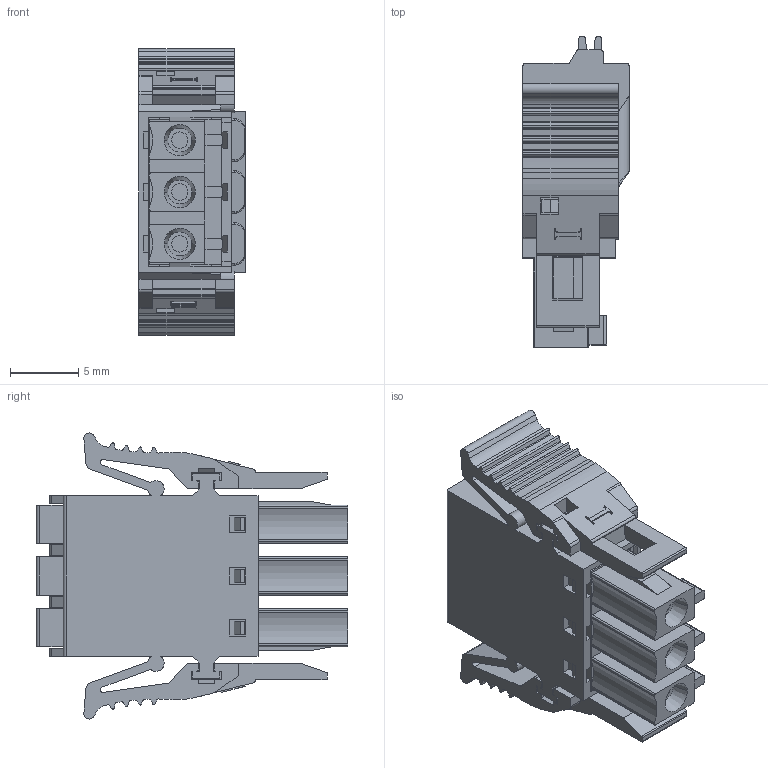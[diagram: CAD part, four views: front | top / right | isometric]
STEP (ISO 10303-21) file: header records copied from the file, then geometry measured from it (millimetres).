
FILE_DESCRIPTION((''),'2;1');
FILE_NAME('33','2019-04-11T',('zhenbing.lai'),(''),'CREO PARAMETRIC BY PTC INC, 2016260','CREO PARAMETRIC BY PTC INC, 2016260','');
FILE_SCHEMA(('CONFIG_CONTROL_DESIGN'));
Length unit declared in the file: millimetre
Products named in the file (1): 33
Bounding box: 7.8 x 22.9 x 21.02 mm (x, y, z)
Volume: 1797.7 mm3; surface area: 2307.4 mm2
Topology: 1 solids, 1 shells, 698 faces, 1999 edges, 1324 vertices
Faces by surface type: plane 492, cylinder 151, extrusion 27, cone 18, bspline 10
Entity records: 23484 total; most frequent: CARTESIAN_POINT 5019, ORIENTED_EDGE 3998, DIRECTION 3615, EDGE_CURVE 1999, VECTOR 1567, LINE 1540, VERTEX_POINT 1324, AXIS2_PLACEMENT_3D 1024
